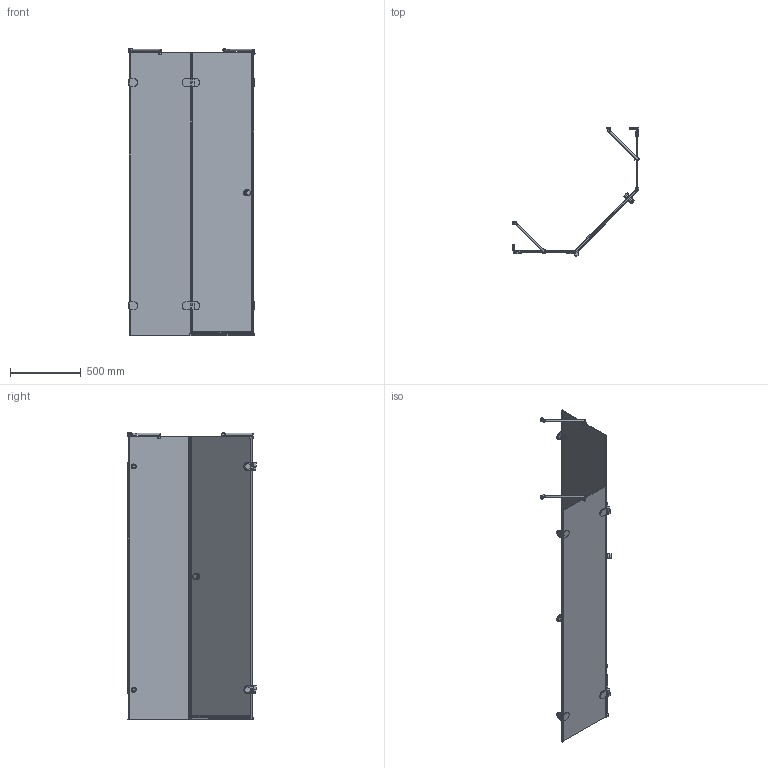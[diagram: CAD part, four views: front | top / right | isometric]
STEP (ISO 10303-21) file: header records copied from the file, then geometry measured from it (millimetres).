
FILE_DESCRIPTION((''),'2;1');
FILE_NAME('E:\Работа\Сергей\Душевые кабинки\! Работа\LUX FESTT GK-001\LUX FESTT GK-001 левая модель\LUX FEST GK-001 ЛЕВАЯ-3D.stp','2017-05-13T15:05:51',('User'),(''),'Autodesk Inventor 2013','Autodesk Inventor 2013','');
FILE_SCHEMA(('CONFIG_CONTROL_DESIGN'));
Length unit declared in the file: millimetre
Products named in the file (1): LUX FEST GK-001 ЛЕВАЯ-3D_Substitute_1
Bounding box: 892.72 x 907.92 x 2031.5 mm (x, y, z)
Volume: 22290438 mm3; surface area: 6350215.1 mm2
Topology: 5 solids, 5 shells, 657 faces, 1616 edges, 994 vertices
Faces by surface type: plane 440, cylinder 159, torus 22, bspline 20, sphere 12, cone 4
Full cylindrical faces by diameter (mm): 12 x2, 15 x2, 20 x4, 26 x2, 35 x4, 38 x4, 40 x4
Entity records: 20379 total; most frequent: CARTESIAN_POINT 4527, DIRECTION 3114, ORIENTED_EDGE 3054, EDGE_CURVE 1527, VECTOR 1092, LINE 1092, AXIS2_PLACEMENT_3D 1011, VERTEX_POINT 964
